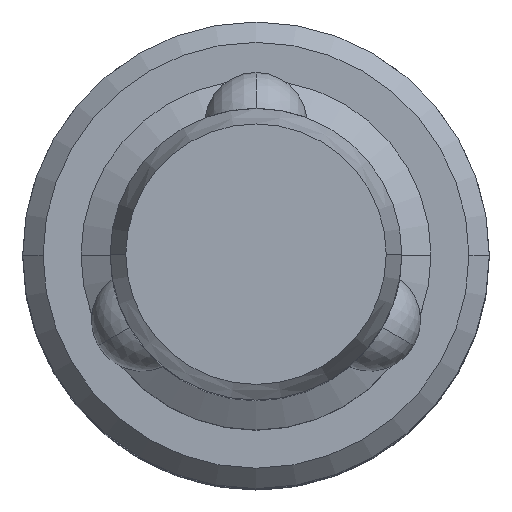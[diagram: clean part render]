
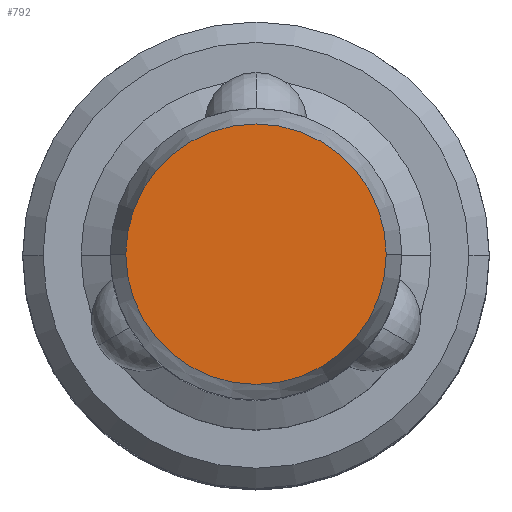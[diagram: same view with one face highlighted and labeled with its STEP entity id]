
A CAD part, top view. The second image highlights one B-rep face of the part: STEP entity #792.
In plain terms, the highlighted planar face has unit normal (0, 0, 1).
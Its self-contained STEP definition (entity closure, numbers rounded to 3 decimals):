
#37 = FACE_OUTER_BOUND ( 'NONE', #1029, .T. ) ;
#79 = PLANE ( 'NONE',  #575 ) ;
#158 = CARTESIAN_POINT ( 'NONE',  ( 0., 0., 21.5 ) ) ;
#181 = DIRECTION ( 'NONE',  ( 1., 0., 0. ) ) ;
#191 = AXIS2_PLACEMENT_3D ( 'NONE', #158, #396, #693 ) ;
#308 = CARTESIAN_POINT ( 'NONE',  ( 0., 0., 21.5 ) ) ;
#334 = DIRECTION ( 'NONE',  ( 0., 0., 1. ) ) ;
#345 = CARTESIAN_POINT ( 'NONE',  ( -4.464, 0., 21.5 ) ) ;
#396 = DIRECTION ( 'NONE',  ( 0., 0., 1. ) ) ;
#503 = CIRCLE ( 'NONE', #554, 4.464 ) ;
#554 = AXIS2_PLACEMENT_3D ( 'NONE', #308, #1080, #181 ) ;
#575 = AXIS2_PLACEMENT_3D ( 'NONE', #1095, #334, #1108 ) ;
#644 = EDGE_CURVE ( 'NONE', #1143, #1114, #503, .T. ) ;
#693 = DIRECTION ( 'NONE',  ( 1., 0., 0. ) ) ;
#792 = ADVANCED_FACE ( 'NONE', ( #37 ), #79, .T. ) ;
#1029 = EDGE_LOOP ( 'NONE', ( #1569, #1117 ) ) ;
#1080 = DIRECTION ( 'NONE',  ( 0., 0., 1. ) ) ;
#1095 = CARTESIAN_POINT ( 'NONE',  ( 0., 0., 21.5 ) ) ;
#1108 = DIRECTION ( 'NONE',  ( 1., 0., 0. ) ) ;
#1114 = VERTEX_POINT ( 'NONE', #345 ) ;
#1117 = ORIENTED_EDGE ( 'NONE', *, *, #644, .T. ) ;
#1143 = VERTEX_POINT ( 'NONE', #1364 ) ;
#1195 = CIRCLE ( 'NONE', #191, 4.464 ) ;
#1360 = EDGE_CURVE ( 'NONE', #1114, #1143, #1195, .T. ) ;
#1364 = CARTESIAN_POINT ( 'NONE',  ( 4.464, 0., 21.5 ) ) ;
#1569 = ORIENTED_EDGE ( 'NONE', *, *, #1360, .T. ) ;
